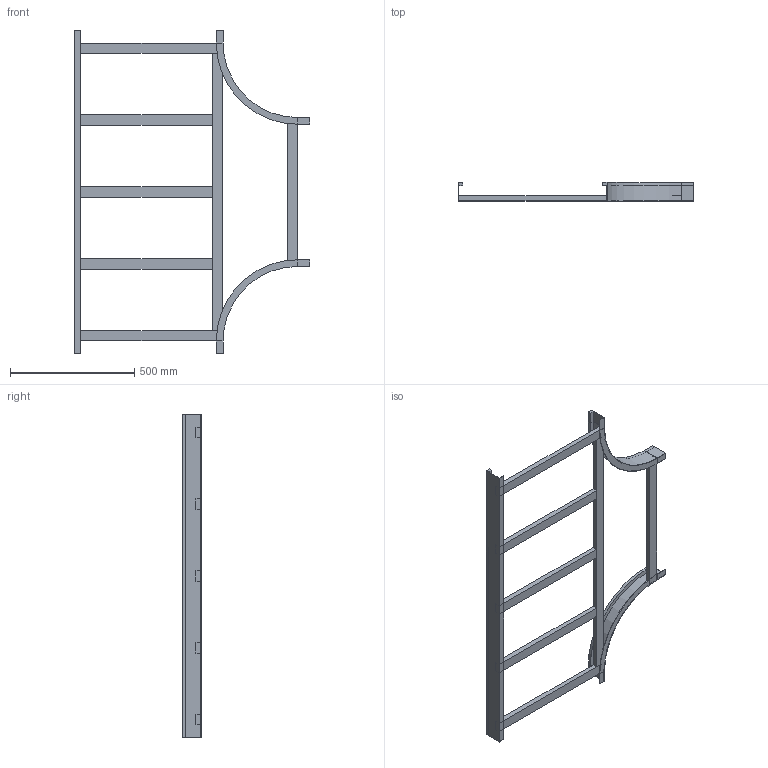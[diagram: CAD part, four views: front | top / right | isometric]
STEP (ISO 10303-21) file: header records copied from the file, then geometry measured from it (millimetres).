
FILE_DESCRIPTION (( 'STEP AP214' ), '1' );
FILE_NAME ('B2_15B3C600.step', '2025-02-21T15:53:54', ( '' ), ( '' ), 'SwSTEP 2.0', 'SolidWorks 2023', '' );
FILE_SCHEMA (( 'AUTOMOTIVE_DESIGN' ));
Length unit declared in the file: millimetre
Products named in the file (6): TRAVERSINO_600; B2_TRAVERSINO_LONG._R300+600; B2_LONGH.INTERNO 90°_H75_R300; B2_15B3C600; TRAVERSINO_INTERMEDIO_R300+600; B2_LONGH.RETT_H75_R300+600
Assembly tree (10 placements, depth 2):
  B2_15B3C600
    B2_LONGH.INTERNO 90°_H75_R300  x2
    B2_LONGH.RETT_H75_R300+600
    TRAVERSINO_600  x3
    B2_TRAVERSINO_LONG._R300+600
    TRAVERSINO_INTERMEDIO_R300+600  x3
Bounding box: 950 x 75 x 1300 mm (x, y, z)
Volume: 4670767 mm3; surface area: 1148037.3 mm2
Topology: 10 solids, 10 shells, 104 faces, 220 edges, 136 vertices
Faces by surface type: plane 96, cylinder 8
Entity records: 1647 total; most frequent: DIRECTION 258, CARTESIAN_POINT 255, ORIENTED_EDGE 232, EDGE_CURVE 116, VECTOR 108, LINE 108, AXIS2_PLACEMENT_3D 75, VERTEX_POINT 72
